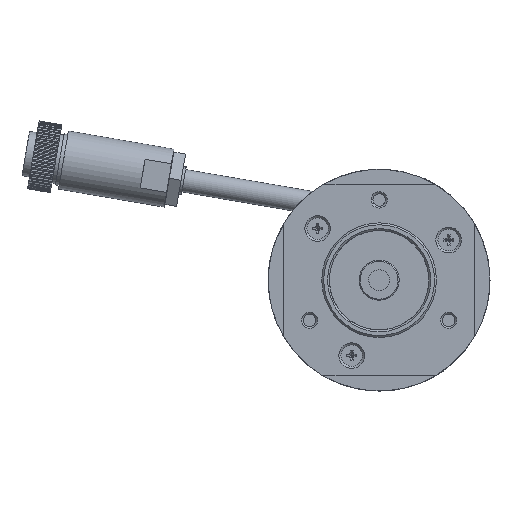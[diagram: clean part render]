
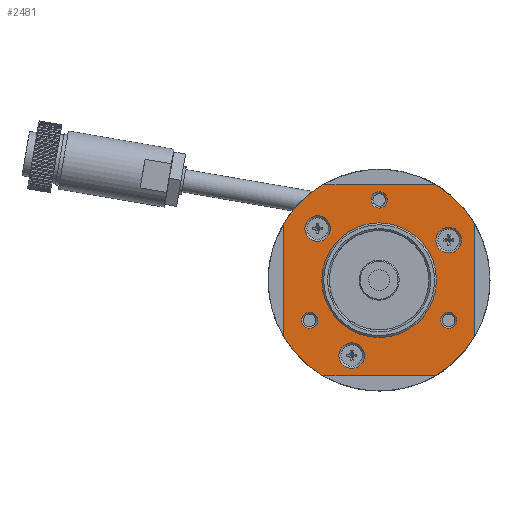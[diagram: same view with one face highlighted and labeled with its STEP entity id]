
A CAD part, left-side view. The second image highlights one B-rep face of the part: STEP entity #2481.
In plain terms, the highlighted planar face has unit normal (-1, 0, 0).
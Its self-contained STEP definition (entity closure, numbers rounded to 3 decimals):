
#2481=ADVANCED_FACE('',(#8729,#8731,#8733,#8735,#8737,#8739,#8741,#8743),#8745,.F.);
#8729=FACE_BOUND('',#8730,.T.);
#8730=EDGE_LOOP('',(#14105,#14106,#14107,#14108,#14109,#14110,#14111,#14112));
#8731=FACE_BOUND('',#8732,.T.);
#8732=EDGE_LOOP('',(#14113));
#8733=FACE_BOUND('',#8734,.T.);
#8734=EDGE_LOOP('',(#14114));
#8735=FACE_BOUND('',#8736,.T.);
#8736=EDGE_LOOP('',(#14115));
#8737=FACE_BOUND('',#8738,.T.);
#8738=EDGE_LOOP('',(#14116));
#8739=FACE_BOUND('',#8740,.T.);
#8740=EDGE_LOOP('',(#14117));
#8741=FACE_BOUND('',#8742,.T.);
#8742=EDGE_LOOP('',(#14118));
#8743=FACE_BOUND('',#8744,.T.);
#8744=EDGE_LOOP('',(#14119));
#8745=PLANE('',#8746);
#8746=AXIS2_PLACEMENT_3D('',#8747,#8748,#8749);
#8747=CARTESIAN_POINT('',(-20.,0.,0.));
#8748=DIRECTION('',(1.,0.,0.));
#8749=DIRECTION('',(0.,0.,1.));
#14105=ORIENTED_EDGE('',*,*,#16987,.F.);
#14106=ORIENTED_EDGE('',*,*,#16988,.F.);
#14107=ORIENTED_EDGE('',*,*,#16989,.F.);
#14108=ORIENTED_EDGE('',*,*,#16990,.F.);
#14109=ORIENTED_EDGE('',*,*,#16991,.F.);
#14110=ORIENTED_EDGE('',*,*,#16992,.F.);
#14111=ORIENTED_EDGE('',*,*,#16993,.F.);
#14112=ORIENTED_EDGE('',*,*,#16994,.F.);
#14113=ORIENTED_EDGE('',*,*,#16995,.F.);
#14114=ORIENTED_EDGE('',*,*,#16996,.F.);
#14115=ORIENTED_EDGE('',*,*,#16997,.F.);
#14116=ORIENTED_EDGE('',*,*,#16998,.F.);
#14117=ORIENTED_EDGE('',*,*,#16999,.F.);
#14118=ORIENTED_EDGE('',*,*,#16907,.T.);
#14119=ORIENTED_EDGE('',*,*,#17000,.F.);
#16907=EDGE_CURVE('',#19093,#19093,#19094,.T.);
#16987=EDGE_CURVE('',#19247,#19248,#19249,.T.);
#16988=EDGE_CURVE('',#19250,#19247,#19251,.T.);
#16989=EDGE_CURVE('',#19252,#19250,#19253,.T.);
#16990=EDGE_CURVE('',#19254,#19252,#19255,.T.);
#16991=EDGE_CURVE('',#19256,#19254,#19257,.T.);
#16992=EDGE_CURVE('',#19258,#19256,#19259,.T.);
#16993=EDGE_CURVE('',#19260,#19258,#19261,.T.);
#16994=EDGE_CURVE('',#19248,#19260,#19262,.T.);
#16995=EDGE_CURVE('',#19263,#19263,#19264,.T.);
#16996=EDGE_CURVE('',#19265,#19265,#19266,.T.);
#16997=EDGE_CURVE('',#19267,#19267,#19268,.T.);
#16998=EDGE_CURVE('',#19269,#19269,#19270,.T.);
#16999=EDGE_CURVE('',#19271,#19271,#19272,.T.);
#17000=EDGE_CURVE('',#19273,#19273,#19274,.T.);
#19093=VERTEX_POINT('',#24994);
#19094=CIRCLE('',#24995,15.);
#19247=VERTEX_POINT('',#26259);
#19248=VERTEX_POINT('',#26260);
#19249=CIRCLE('',#26261,29.);
#19250=VERTEX_POINT('',#26265);
#19251=LINE('',#26266,#26267);
#19252=VERTEX_POINT('',#26269);
#19253=CIRCLE('',#26270,29.);
#19254=VERTEX_POINT('',#26274);
#19255=LINE('',#26275,#26276);
#19256=VERTEX_POINT('',#26278);
#19257=CIRCLE('',#26279,29.);
#19258=VERTEX_POINT('',#26283);
#19259=LINE('',#26284,#26285);
#19260=VERTEX_POINT('',#26287);
#19261=CIRCLE('',#26288,29.);
#19262=LINE('',#26292,#26293);
#19263=VERTEX_POINT('',#26295);
#19264=CIRCLE('',#26296,2.121);
#19265=VERTEX_POINT('',#26300);
#19266=CIRCLE('',#26301,2.121);
#19267=VERTEX_POINT('',#26305);
#19268=CIRCLE('',#26306,3.35);
#19269=VERTEX_POINT('',#26310);
#19270=CIRCLE('',#26311,3.35);
#19271=VERTEX_POINT('',#26315);
#19272=CIRCLE('',#26316,3.35);
#19273=VERTEX_POINT('',#26320);
#19274=CIRCLE('',#26321,2.121);
#24994=CARTESIAN_POINT('',(-20.,0.,15.));
#24995=AXIS2_PLACEMENT_3D('',#24996,#24997,#24998);
#24996=CARTESIAN_POINT('',(-20.,0.,0.));
#24997=DIRECTION('',(1.,0.,0.));
#24998=DIRECTION('',(0.,0.,-1.));
#26259=CARTESIAN_POINT('',(-20.,-14.697,25.));
#26260=CARTESIAN_POINT('',(-20.,-25.,14.697));
#26261=AXIS2_PLACEMENT_3D('',#26262,#26263,#26264);
#26262=CARTESIAN_POINT('',(-20.,0.,0.));
#26263=DIRECTION('',(1.,0.,0.));
#26264=DIRECTION('',(0.,-0.507,0.862));
#26265=CARTESIAN_POINT('',(-20.,14.697,25.));
#26266=CARTESIAN_POINT('',(-20.,14.697,25.));
#26267=VECTOR('',#26268,1.);
#26268=DIRECTION('',(0.,-1.,0.));
#26269=CARTESIAN_POINT('',(-20.,25.,14.697));
#26270=AXIS2_PLACEMENT_3D('',#26271,#26272,#26273);
#26271=CARTESIAN_POINT('',(-20.,0.,0.));
#26272=DIRECTION('',(1.,0.,0.));
#26273=DIRECTION('',(0.,0.862,0.507));
#26274=CARTESIAN_POINT('',(-20.,25.,-14.697));
#26275=CARTESIAN_POINT('',(-20.,25.,-14.697));
#26276=VECTOR('',#26277,1.);
#26277=DIRECTION('',(0.,0.,1.));
#26278=CARTESIAN_POINT('',(-20.,14.697,-25.));
#26279=AXIS2_PLACEMENT_3D('',#26280,#26281,#26282);
#26280=CARTESIAN_POINT('',(-20.,0.,0.));
#26281=DIRECTION('',(1.,0.,0.));
#26282=DIRECTION('',(0.,0.507,-0.862));
#26283=CARTESIAN_POINT('',(-20.,-14.697,-25.));
#26284=CARTESIAN_POINT('',(-20.,-14.697,-25.));
#26285=VECTOR('',#26286,1.);
#26286=DIRECTION('',(0.,1.,0.));
#26287=CARTESIAN_POINT('',(-20.,-25.,-14.697));
#26288=AXIS2_PLACEMENT_3D('',#26289,#26290,#26291);
#26289=CARTESIAN_POINT('',(-20.,0.,0.));
#26290=DIRECTION('',(1.,0.,0.));
#26291=DIRECTION('',(0.,-0.862,-0.507));
#26292=CARTESIAN_POINT('',(-20.,-25.,14.697));
#26293=VECTOR('',#26294,1.);
#26294=DIRECTION('',(0.,0.,-1.));
#26295=CARTESIAN_POINT('',(-20.,0.,18.879));
#26296=AXIS2_PLACEMENT_3D('',#26297,#26298,#26299);
#26297=CARTESIAN_POINT('',(-20.,0.,21.));
#26298=DIRECTION('',(-1.,0.,0.));
#26299=DIRECTION('',(0.,0.,-1.));
#26300=CARTESIAN_POINT('',(-20.,-18.187,-12.621));
#26301=AXIS2_PLACEMENT_3D('',#26302,#26303,#26304);
#26302=CARTESIAN_POINT('',(-20.,-18.187,-10.5));
#26303=DIRECTION('',(-1.,0.,0.));
#26304=DIRECTION('',(0.,0.,-1.));
#26305=CARTESIAN_POINT('',(-20.,-18.187,7.15));
#26306=AXIS2_PLACEMENT_3D('',#26307,#26308,#26309);
#26307=CARTESIAN_POINT('',(-20.,-18.187,10.5));
#26308=DIRECTION('',(-1.,0.,0.));
#26309=DIRECTION('',(0.,0.,1.));
#26310=CARTESIAN_POINT('',(-20.,16.087,10.149));
#26311=AXIS2_PLACEMENT_3D('',#26312,#26313,#26314);
#26312=CARTESIAN_POINT('',(-20.,16.087,13.499));
#26313=DIRECTION('',(-1.,0.,0.));
#26314=DIRECTION('',(0.,0.,1.));
#26315=CARTESIAN_POINT('',(-20.,7.182,-23.084));
#26316=AXIS2_PLACEMENT_3D('',#26317,#26318,#26319);
#26317=CARTESIAN_POINT('',(-20.,7.182,-19.734));
#26318=DIRECTION('',(-1.,0.,0.));
#26319=DIRECTION('',(0.,0.,1.));
#26320=CARTESIAN_POINT('',(-20.,18.187,-12.621));
#26321=AXIS2_PLACEMENT_3D('',#26322,#26323,#26324);
#26322=CARTESIAN_POINT('',(-20.,18.187,-10.5));
#26323=DIRECTION('',(-1.,0.,0.));
#26324=DIRECTION('',(0.,0.,-1.));
